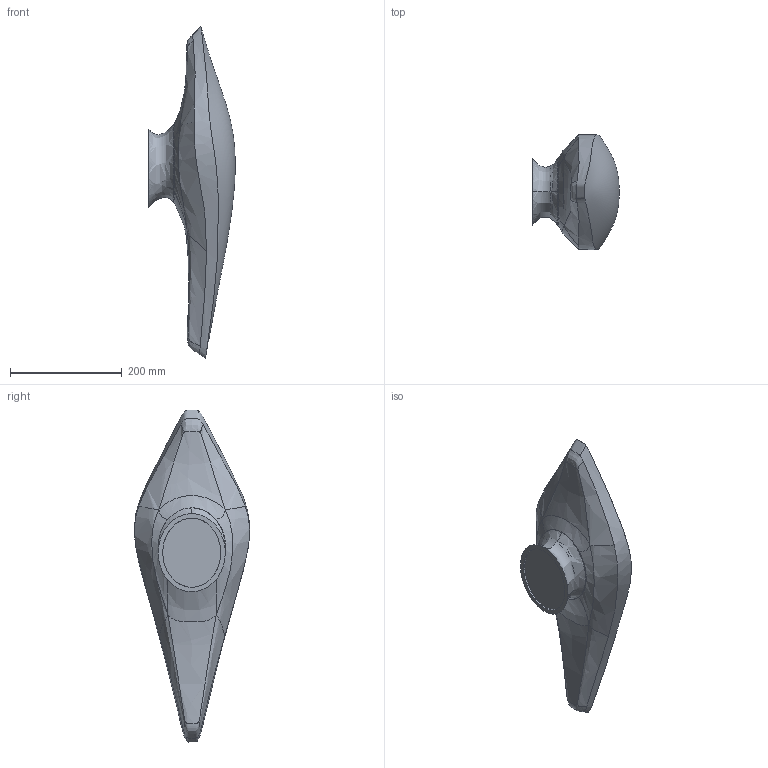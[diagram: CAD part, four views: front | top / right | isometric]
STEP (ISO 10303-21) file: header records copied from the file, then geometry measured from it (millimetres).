
FILE_DESCRIPTION(/* description */ (''),/* implementation_level */ '2;1');
FILE_NAME(/* name */ 'Duna Wall',/* time_stamp */ '2019-01-22T12:49:44+01:00',/* author */ (''),/* organization */ (''),/* preprocessor_version */ 'ST-DEVELOPER v15',/* originating_system */ '',/* authorisation */ '');
FILE_SCHEMA (('AUTOMOTIVE_DESIGN'));
Length unit declared in the file: millimetre
Products named in the file (1): Document
Bounding box: 154.96 x 206.35 x 595.23 mm (x, y, z)
Volume: 5251855.6 mm3; surface area: 256693.3 mm2
Topology: 2 solids, 2 shells, 30 faces, 70 edges, 48 vertices
Faces by surface type: bspline 30
Entity records: 46299 total; most frequent: CARTESIAN_POINT 45344, B_SPLINE_CURVE_WITH_KNOTS 184, ORIENTED_EDGE 136, PCURVE 136, DEFINITIONAL_REPRESENTATION 136, SURFACE_CURVE 68, EDGE_CURVE 68, VERTEX_POINT 44
